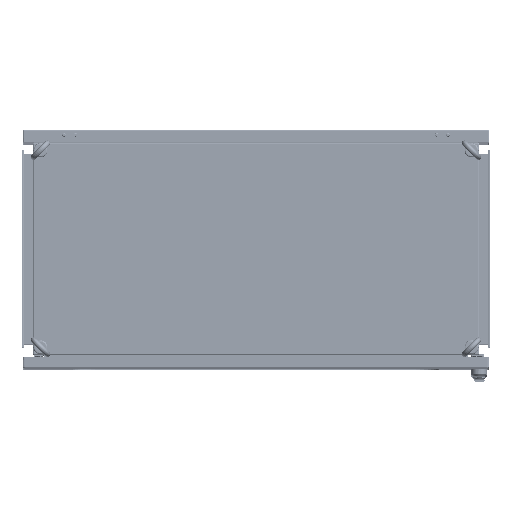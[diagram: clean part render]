
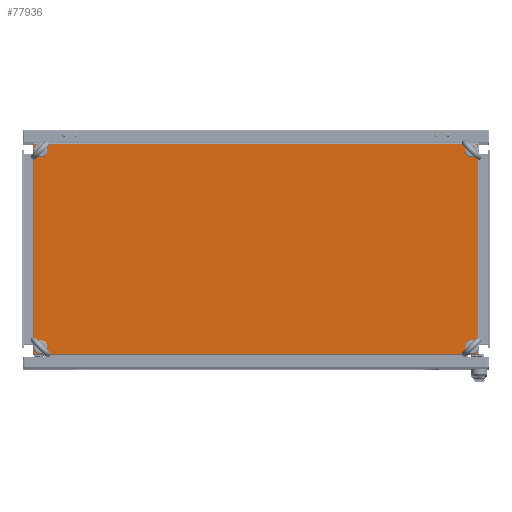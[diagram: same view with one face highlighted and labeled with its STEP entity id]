
A CAD part, top view. The second image highlights one B-rep face of the part: STEP entity #77936.
In plain terms, the highlighted planar face has unit normal (0, 0, 1).
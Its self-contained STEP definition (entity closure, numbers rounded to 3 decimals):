
#7842=LINE('',#124544,#15289);
#7843=LINE('',#124547,#15290);
#7844=LINE('',#124549,#15291);
#7845=LINE('',#124551,#15292);
#15289=VECTOR('',#100559,1000.);
#15290=VECTOR('',#100560,1000.);
#15291=VECTOR('',#100561,1000.);
#15292=VECTOR('',#100562,1000.);
#28922=ORIENTED_EDGE('',*,*,#45374,.F.);
#28923=ORIENTED_EDGE('',*,*,#45375,.F.);
#28924=ORIENTED_EDGE('',*,*,#45376,.F.);
#28925=ORIENTED_EDGE('',*,*,#45377,.F.);
#28926=ORIENTED_EDGE('',*,*,#45378,.T.);
#28927=ORIENTED_EDGE('',*,*,#45379,.F.);
#28928=ORIENTED_EDGE('',*,*,#45380,.T.);
#28929=ORIENTED_EDGE('',*,*,#45381,.T.);
#45374=EDGE_CURVE('',#54595,#54595,#59146,.T.);
#45375=EDGE_CURVE('',#54596,#54596,#59147,.T.);
#45376=EDGE_CURVE('',#54597,#54597,#59148,.T.);
#45377=EDGE_CURVE('',#54598,#54598,#59149,.T.);
#45378=EDGE_CURVE('',#54599,#54600,#7842,.T.);
#45379=EDGE_CURVE('',#54601,#54600,#7843,.F.);
#45380=EDGE_CURVE('',#54601,#54602,#7844,.T.);
#45381=EDGE_CURVE('',#54602,#54599,#7845,.T.);
#54595=VERTEX_POINT('',#124537);
#54596=VERTEX_POINT('',#124539);
#54597=VERTEX_POINT('',#124541);
#54598=VERTEX_POINT('',#124543);
#54599=VERTEX_POINT('',#124545);
#54600=VERTEX_POINT('',#124546);
#54601=VERTEX_POINT('',#124548);
#54602=VERTEX_POINT('',#124550);
#59146=CIRCLE('',#86471,6.5);
#59147=CIRCLE('',#86472,6.5);
#59148=CIRCLE('',#86473,6.5);
#59149=CIRCLE('',#86474,6.5);
#64115=EDGE_LOOP('',(#28922));
#64116=EDGE_LOOP('',(#28923));
#64117=EDGE_LOOP('',(#28924));
#64118=EDGE_LOOP('',(#28925));
#64119=EDGE_LOOP('',(#28926,#28927,#28928,#28929));
#70383=FACE_BOUND('',#64115,.T.);
#70384=FACE_BOUND('',#64116,.T.);
#70385=FACE_BOUND('',#64117,.T.);
#70386=FACE_BOUND('',#64118,.T.);
#70387=FACE_BOUND('',#64119,.T.);
#74885=PLANE('',#86470);
#77936=ADVANCED_FACE('',(#70383,#70384,#70385,#70386,#70387),#74885,.F.);
#86470=AXIS2_PLACEMENT_3D('',#124535,#100549,#100550);
#86471=AXIS2_PLACEMENT_3D('',#124536,#100551,#100552);
#86472=AXIS2_PLACEMENT_3D('',#124538,#100553,#100554);
#86473=AXIS2_PLACEMENT_3D('',#124540,#100555,#100556);
#86474=AXIS2_PLACEMENT_3D('',#124542,#100557,#100558);
#100549=DIRECTION('',(0.,0.,-1.));
#100550=DIRECTION('',(-1.,0.,0.));
#100551=DIRECTION('',(0.,0.,1.));
#100552=DIRECTION('',(1.,0.,0.));
#100553=DIRECTION('',(0.,0.,1.));
#100554=DIRECTION('',(1.,0.,0.));
#100555=DIRECTION('',(0.,0.,1.));
#100556=DIRECTION('',(1.,0.,0.));
#100557=DIRECTION('',(0.,0.,1.));
#100558=DIRECTION('',(1.,0.,0.));
#100559=DIRECTION('',(0.,-1.,0.));
#100560=DIRECTION('',(1.,0.,0.));
#100561=DIRECTION('',(0.,1.,0.));
#100562=DIRECTION('',(-1.,0.,0.));
#124535=CARTESIAN_POINT('',(0.,0.,0.));
#124536=CARTESIAN_POINT('',(460.5,210.5,0.));
#124537=CARTESIAN_POINT('',(467.,210.5,0.));
#124538=CARTESIAN_POINT('',(-460.5,210.5,0.));
#124539=CARTESIAN_POINT('',(-454.,210.5,0.));
#124540=CARTESIAN_POINT('',(460.5,-210.5,0.));
#124541=CARTESIAN_POINT('',(467.,-210.5,0.));
#124542=CARTESIAN_POINT('',(-460.5,-210.5,0.));
#124543=CARTESIAN_POINT('',(-454.,-210.5,0.));
#124544=CARTESIAN_POINT('',(-474.2,224.2,0.));
#124545=CARTESIAN_POINT('',(-474.2,224.2,0.));
#124546=CARTESIAN_POINT('',(-474.2,-224.2,0.));
#124547=CARTESIAN_POINT('',(474.2,-224.2,0.));
#124548=CARTESIAN_POINT('',(474.2,-224.2,0.));
#124549=CARTESIAN_POINT('',(474.2,-224.2,0.));
#124550=CARTESIAN_POINT('',(474.2,224.2,0.));
#124551=CARTESIAN_POINT('',(474.2,224.2,0.));
